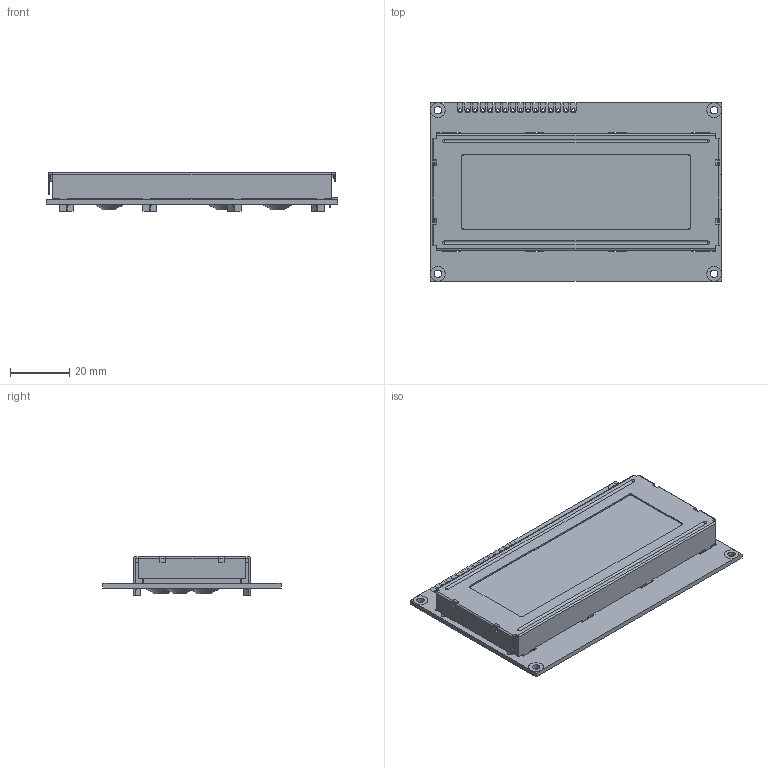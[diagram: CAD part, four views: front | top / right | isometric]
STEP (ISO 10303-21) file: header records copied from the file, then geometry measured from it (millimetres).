
FILE_DESCRIPTION(/* description */ ('Unknown'),/* implementation_level */ '2;1');
FILE_NAME(/* name */ 'WH2004A-Y',/* time_stamp */ '2018-12-12T09:49:32+08:00',/* author */ ('Unknown'),/* organization */ ('Unknown'),/* preprocessor_version */ 'ST-DEVELOPER v16.7',/* originating_system */ 'DEX',/* authorisation */ $);
FILE_SCHEMA (('AUTOMOTIVE_DESIGN {1 0 10303 214 3 1 1}'));
Products named in the file (1): WH2004A-Y
Bounding box: 98 x 60 x 13.1 mm (x, y, z)
Volume: 38976.3 mm3; surface area: 45858.8 mm2
Topology: 289 solids, 289 shells, 3298 faces, 7410 edges, 4923 vertices
Faces by surface type: plane 3075, cylinder 202, sphere 10, bspline 8, cone 3
Full cylindrical faces by diameter (mm): 0.51 x2, 1 x16, 1.2 x2, 1.6 x2, 1.8 x2, 2.5 x4, 2.6 x4, 5 x4
Entity records: 91706 total; most frequent: CARTESIAN_POINT 15721, ORIENTED_EDGE 14692, DIRECTION 14316, EDGE_CURVE 7346, LINE 6926, VECTOR 6926, VERTEX_POINT 4908, AXIS2_PLACEMENT_3D 3695
